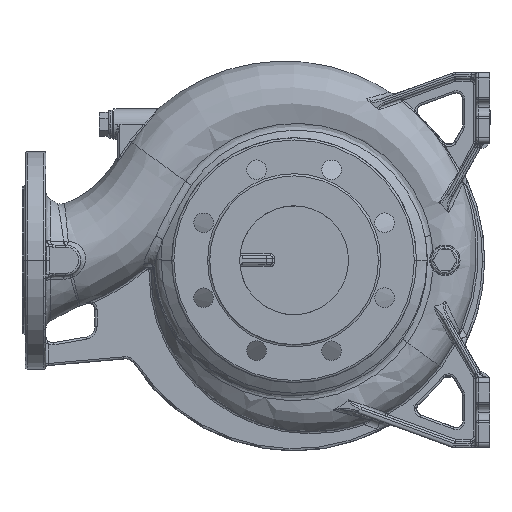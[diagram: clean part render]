
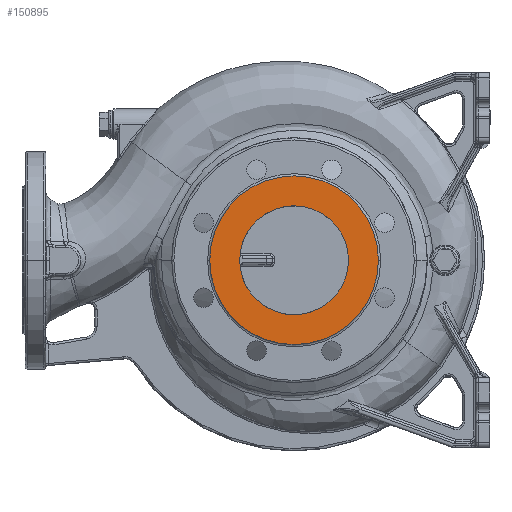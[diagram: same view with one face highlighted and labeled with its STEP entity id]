
A CAD part, front view. The second image highlights one B-rep face of the part: STEP entity #150895.
In plain terms, the highlighted planar face has unit normal (0, -1, 0).
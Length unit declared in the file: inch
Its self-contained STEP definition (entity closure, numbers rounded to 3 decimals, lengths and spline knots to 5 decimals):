
#4838 = AXIS2_PLACEMENT_3D ( 'NONE', #21979, #167136, #151538 ) ;
#8065 = ORIENTED_EDGE ( 'NONE', *, *, #25363, .T. ) ;
#9674 = VERTEX_POINT ( 'NONE', #83196 ) ;
#14207 = EDGE_CURVE ( 'NONE', #66678, #40541, #88102, .T. ) ;
#15205 = CARTESIAN_POINT ( 'NONE',  ( 0., -10.90551, 0. ) ) ;
#15918 = DIRECTION ( 'NONE',  ( -1., 0., 0. ) ) ;
#16943 = PLANE ( 'NONE',  #92187 ) ;
#19506 = CARTESIAN_POINT ( 'NONE',  ( 3.05118, -10.90551, 0. ) ) ;
#20098 = EDGE_LOOP ( 'NONE', ( #162921, #105410 ) ) ;
#21979 = CARTESIAN_POINT ( 'NONE',  ( 0., -10.90551, 0. ) ) ;
#25363 = EDGE_CURVE ( 'NONE', #9674, #94652, #53955, .T. ) ;
#26953 = CARTESIAN_POINT ( 'NONE',  ( 1.9685, -10.90551, 0. ) ) ;
#27241 = DIRECTION ( 'NONE',  ( 0., -1., 0. ) ) ;
#30622 = DIRECTION ( 'NONE',  ( -1., 0., 0. ) ) ;
#40541 = VERTEX_POINT ( 'NONE', #19506 ) ;
#42783 = CARTESIAN_POINT ( 'NONE',  ( 0., -10.90551, 0. ) ) ;
#47425 = AXIS2_PLACEMENT_3D ( 'NONE', #81267, #83861, #134306 ) ;
#48505 = AXIS2_PLACEMENT_3D ( 'NONE', #42783, #67989, #30622 ) ;
#53955 = CIRCLE ( 'NONE', #48505, 1.9685 ) ;
#66678 = VERTEX_POINT ( 'NONE', #69986 ) ;
#67989 = DIRECTION ( 'NONE',  ( 0., 1., 0. ) ) ;
#68232 = DIRECTION ( 'NONE',  ( 1., 0., 0. ) ) ;
#69986 = CARTESIAN_POINT ( 'NONE',  ( -3.05118, -10.90551, 0. ) ) ;
#81267 = CARTESIAN_POINT ( 'NONE',  ( 0., -10.90551, 0. ) ) ;
#83196 = CARTESIAN_POINT ( 'NONE',  ( -1.9685, -10.90551, 0. ) ) ;
#83861 = DIRECTION ( 'NONE',  ( 0., 1., 0. ) ) ;
#84376 = EDGE_LOOP ( 'NONE', ( #148983, #8065 ) ) ;
#88102 = CIRCLE ( 'NONE', #4838, 3.05118 ) ;
#92187 = AXIS2_PLACEMENT_3D ( 'NONE', #15205, #149069, #68232 ) ;
#92645 = CIRCLE ( 'NONE', #151116, 1.9685 ) ;
#94652 = VERTEX_POINT ( 'NONE', #26953 ) ;
#105410 = ORIENTED_EDGE ( 'NONE', *, *, #14207, .T. ) ;
#106876 = EDGE_CURVE ( 'NONE', #9674, #94652, #92645, .T. ) ;
#108465 = CIRCLE ( 'NONE', #47425, 3.05118 ) ;
#134305 = FACE_BOUND ( 'NONE', #84376, .T. ) ;
#134306 = DIRECTION ( 'NONE',  ( -1., 0., 0. ) ) ;
#148983 = ORIENTED_EDGE ( 'NONE', *, *, #106876, .F. ) ;
#149069 = DIRECTION ( 'NONE',  ( 0., 1., 0. ) ) ;
#150895 = ADVANCED_FACE ( 'NONE', ( #162085, #134305 ), #16943, .F. ) ;
#151116 = AXIS2_PLACEMENT_3D ( 'NONE', #161921, #27241, #15918 ) ;
#151538 = DIRECTION ( 'NONE',  ( -1., 0., 0. ) ) ;
#161921 = CARTESIAN_POINT ( 'NONE',  ( 0., -10.90551, 0. ) ) ;
#162085 = FACE_OUTER_BOUND ( 'NONE', #20098, .T. ) ;
#162921 = ORIENTED_EDGE ( 'NONE', *, *, #171083, .F. ) ;
#167136 = DIRECTION ( 'NONE',  ( 0., -1., 0. ) ) ;
#171083 = EDGE_CURVE ( 'NONE', #66678, #40541, #108465, .T. ) ;
